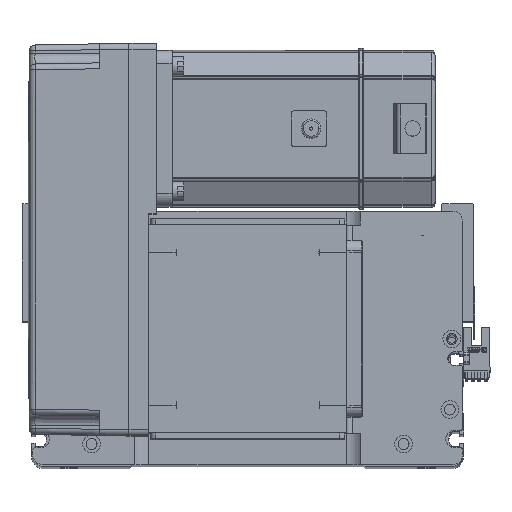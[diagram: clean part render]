
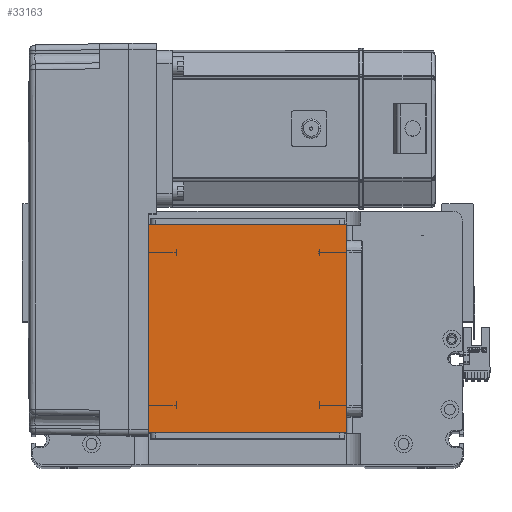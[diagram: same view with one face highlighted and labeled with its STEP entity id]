
A CAD part, top view. The second image highlights one B-rep face of the part: STEP entity #33163.
In plain terms, the highlighted planar face has unit normal (0, 0, 1).
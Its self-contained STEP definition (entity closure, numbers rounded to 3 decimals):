
#315 = DIRECTION ( 'NONE',  ( 0., 1., 0. ) ) ;
#2584 = CARTESIAN_POINT ( 'NONE',  ( -50.5, 122., 115. ) ) ;
#2679 = EDGE_CURVE ( 'NONE', #16506, #40245, #44764, .T. ) ;
#2753 = FACE_OUTER_BOUND ( 'NONE', #50178, .T. ) ;
#3775 = CARTESIAN_POINT ( 'NONE',  ( 50.5, 122., 115. ) ) ;
#4594 = EDGE_CURVE ( 'NONE', #36490, #19817, #31148, .T. ) ;
#5546 = ORIENTED_EDGE ( 'NONE', *, *, #2679, .T. ) ;
#8535 = CARTESIAN_POINT ( 'NONE',  ( -50.5, 122., 115. ) ) ;
#9415 = ORIENTED_EDGE ( 'NONE', *, *, #4594, .T. ) ;
#9941 = DIRECTION ( 'NONE',  ( 1., 0., 0. ) ) ;
#10302 = DIRECTION ( 'NONE',  ( 0., 0., 1. ) ) ;
#10470 = PLANE ( 'NONE',  #35005 ) ;
#16506 = VERTEX_POINT ( 'NONE', #47740 ) ;
#16623 = LINE ( 'NONE', #2584, #39321 ) ;
#19817 = VERTEX_POINT ( 'NONE', #40918 ) ;
#21543 = DIRECTION ( 'NONE',  ( -1., 0., 0. ) ) ;
#26213 = ORIENTED_EDGE ( 'NONE', *, *, #28876, .T. ) ;
#27877 = DIRECTION ( 'NONE',  ( 1., 0., 0. ) ) ;
#28876 = EDGE_CURVE ( 'NONE', #19817, #16506, #44847, .T. ) ;
#31148 = LINE ( 'NONE', #36064, #34827 ) ;
#33163 = ADVANCED_FACE ( 'NONE', ( #2753 ), #10470, .T. ) ;
#33487 = CARTESIAN_POINT ( 'NONE',  ( 0., 0., 115. ) ) ;
#34827 = VECTOR ( 'NONE', #27877, 1000. ) ;
#35005 = AXIS2_PLACEMENT_3D ( 'NONE', #33487, #10302, #9941 ) ;
#36064 = CARTESIAN_POINT ( 'NONE',  ( -50.5, 16., 115. ) ) ;
#36490 = VERTEX_POINT ( 'NONE', #50131 ) ;
#38457 = EDGE_CURVE ( 'NONE', #40245, #36490, #16623, .T. ) ;
#39321 = VECTOR ( 'NONE', #45932, 1000. ) ;
#40245 = VERTEX_POINT ( 'NONE', #40425 ) ;
#40425 = CARTESIAN_POINT ( 'NONE',  ( -50.5, 122., 115. ) ) ;
#40918 = CARTESIAN_POINT ( 'NONE',  ( 50.5, 16., 115. ) ) ;
#41757 = ORIENTED_EDGE ( 'NONE', *, *, #38457, .T. ) ;
#44764 = LINE ( 'NONE', #8535, #46017 ) ;
#44847 = LINE ( 'NONE', #3775, #47912 ) ;
#45932 = DIRECTION ( 'NONE',  ( 0., -1., 0. ) ) ;
#46017 = VECTOR ( 'NONE', #21543, 1000. ) ;
#47740 = CARTESIAN_POINT ( 'NONE',  ( 50.5, 122., 115. ) ) ;
#47912 = VECTOR ( 'NONE', #315, 1000. ) ;
#50131 = CARTESIAN_POINT ( 'NONE',  ( -50.5, 16., 115. ) ) ;
#50178 = EDGE_LOOP ( 'NONE', ( #41757, #9415, #26213, #5546 ) ) ;
